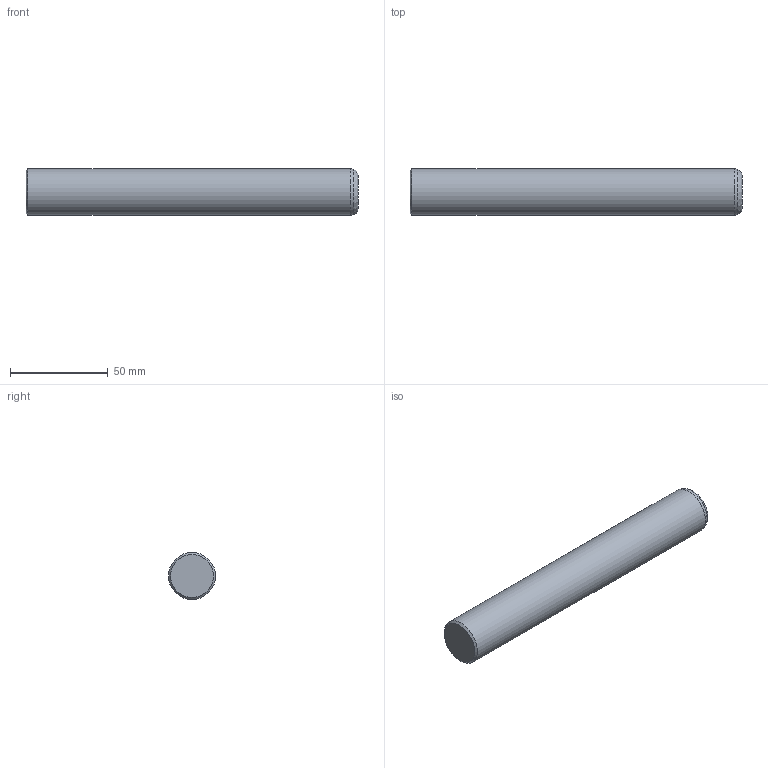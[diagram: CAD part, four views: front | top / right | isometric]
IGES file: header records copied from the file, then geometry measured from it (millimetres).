
Global section: file name: C424170.ipt; native system: Autodesk Inventor 2021; preprocessor: unknown; author: SM; date: 20211220.143142; units: millimetre
Bounding box: 170 x 24 x 24 mm (x, y, z)
Volume: 76652.2 mm3; surface area: 13549.6 mm2
Topology: 1 solids, 1 shells, 6 faces, 11 edges, 7 vertices
Faces by surface type: cone 2, plane 2, revolution 1, cylinder 1
Full cylindrical faces by diameter (mm): 24 x1
